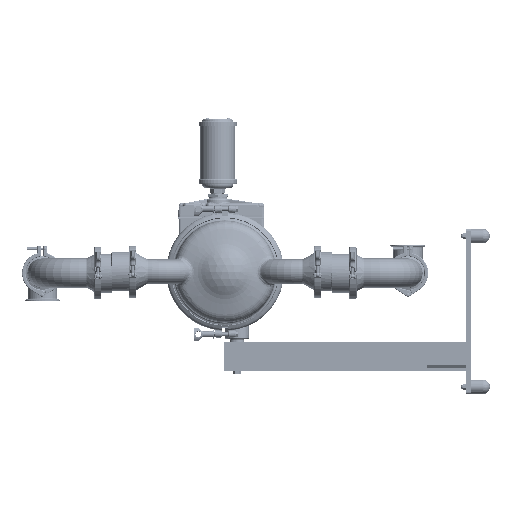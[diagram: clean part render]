
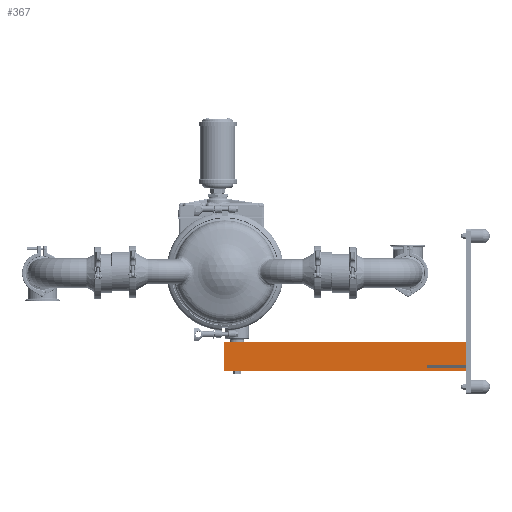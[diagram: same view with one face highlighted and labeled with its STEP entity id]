
A CAD part, left-side view. The second image highlights one B-rep face of the part: STEP entity #367.
In plain terms, the highlighted planar face has unit normal (-1, 0, 0).
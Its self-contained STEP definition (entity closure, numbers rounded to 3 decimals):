
#367 = ADVANCED_FACE ( 'NONE', ( #174367 ), #87871, .T. ) ;
#6681 = EDGE_CURVE ( 'NONE', #410140, #149663, #484894, .T. ) ;
#10469 = DIRECTION ( 'NONE',  ( 0., 0., -1. ) ) ;
#13203 = VERTEX_POINT ( 'NONE', #480945 ) ;
#38767 = VERTEX_POINT ( 'NONE', #410644 ) ;
#43257 = DIRECTION ( 'NONE',  ( -1., 0., 0. ) ) ;
#48456 = VECTOR ( 'NONE', #70812, 39.37 ) ;
#66493 = LINE ( 'NONE', #317818, #229414 ) ;
#68769 = VECTOR ( 'NONE', #539382, 39.37 ) ;
#70812 = DIRECTION ( 'NONE',  ( 0., 1., 0. ) ) ;
#73499 = CARTESIAN_POINT ( 'NONE',  ( -1., -24.72, -7.236 ) ) ;
#87871 = PLANE ( 'NONE',  #534142 ) ;
#105594 = DIRECTION ( 'NONE',  ( 0., 0., -1. ) ) ;
#110876 = CARTESIAN_POINT ( 'NONE',  ( -1., 0.093, -10.236 ) ) ;
#111795 = LINE ( 'NONE', #156423, #470152 ) ;
#112557 = ORIENTED_EDGE ( 'NONE', *, *, #477475, .F. ) ;
#115954 = EDGE_CURVE ( 'NONE', #524233, #132745, #329991, .T. ) ;
#132745 = VERTEX_POINT ( 'NONE', #336823 ) ;
#149663 = VERTEX_POINT ( 'NONE', #436803 ) ;
#151960 = EDGE_CURVE ( 'NONE', #290264, #132745, #543511, .T. ) ;
#156423 = CARTESIAN_POINT ( 'NONE',  ( -1., -24.72, -9.876 ) ) ;
#161002 = DIRECTION ( 'NONE',  ( 0., 0., 1. ) ) ;
#174367 = FACE_OUTER_BOUND ( 'NONE', #344393, .T. ) ;
#198822 = DIRECTION ( 'NONE',  ( 0., 0., -1. ) ) ;
#201980 = LINE ( 'NONE', #464307, #48456 ) ;
#218493 = ORIENTED_EDGE ( 'NONE', *, *, #328784, .F. ) ;
#219024 = CARTESIAN_POINT ( 'NONE',  ( -1., -0.157, -7.236 ) ) ;
#229414 = VECTOR ( 'NONE', #105594, 39.37 ) ;
#237914 = CARTESIAN_POINT ( 'NONE',  ( -1., -24.72, -7.236 ) ) ;
#246284 = ORIENTED_EDGE ( 'NONE', *, *, #255946, .F. ) ;
#255946 = EDGE_CURVE ( 'NONE', #38767, #391671, #66493, .T. ) ;
#257775 = VECTOR ( 'NONE', #507891, 39.37 ) ;
#261130 = VECTOR ( 'NONE', #10469, 39.37 ) ;
#274389 = LINE ( 'NONE', #444707, #459516 ) ;
#282753 = CARTESIAN_POINT ( 'NONE',  ( -1., 0.093, -10.236 ) ) ;
#290264 = VERTEX_POINT ( 'NONE', #282753 ) ;
#295309 = CARTESIAN_POINT ( 'NONE',  ( -1., -24.72, -9.876 ) ) ;
#317818 = CARTESIAN_POINT ( 'NONE',  ( -1., -20.72, -9.626 ) ) ;
#321180 = VECTOR ( 'NONE', #161002, 39.37 ) ;
#327280 = ORIENTED_EDGE ( 'NONE', *, *, #151960, .F. ) ;
#328784 = EDGE_CURVE ( 'NONE', #524233, #13203, #274389, .T. ) ;
#329991 = LINE ( 'NONE', #237914, #68769 ) ;
#335236 = ORIENTED_EDGE ( 'NONE', *, *, #6681, .F. ) ;
#336823 = CARTESIAN_POINT ( 'NONE',  ( -1., 0.093, -7.236 ) ) ;
#344393 = EDGE_LOOP ( 'NONE', ( #335236, #537051, #246284, #482856, #218493, #540852, #327280, #112557 ) ) ;
#348691 = CARTESIAN_POINT ( 'NONE',  ( -1., -20.72, -9.876 ) ) ;
#381138 = DIRECTION ( 'NONE',  ( 0., 0., 1. ) ) ;
#391671 = VERTEX_POINT ( 'NONE', #348691 ) ;
#410140 = VERTEX_POINT ( 'NONE', #295309 ) ;
#410644 = CARTESIAN_POINT ( 'NONE',  ( -1., -20.72, -9.626 ) ) ;
#436803 = CARTESIAN_POINT ( 'NONE',  ( -1., -24.72, -10.236 ) ) ;
#444707 = CARTESIAN_POINT ( 'NONE',  ( -1., -24.72, -7.236 ) ) ;
#459516 = VECTOR ( 'NONE', #198822, 39.37 ) ;
#460717 = DIRECTION ( 'NONE',  ( 0., 1., 0. ) ) ;
#464307 = CARTESIAN_POINT ( 'NONE',  ( -1., -24.72, -9.626 ) ) ;
#470152 = VECTOR ( 'NONE', #460717, 39.37 ) ;
#477475 = EDGE_CURVE ( 'NONE', #149663, #290264, #549792, .T. ) ;
#479398 = CARTESIAN_POINT ( 'NONE',  ( -1., -24.72, -9.876 ) ) ;
#480945 = CARTESIAN_POINT ( 'NONE',  ( -1., -24.72, -9.626 ) ) ;
#482856 = ORIENTED_EDGE ( 'NONE', *, *, #551135, .F. ) ;
#484894 = LINE ( 'NONE', #479398, #261130 ) ;
#497931 = EDGE_CURVE ( 'NONE', #410140, #391671, #111795, .T. ) ;
#502386 = CARTESIAN_POINT ( 'NONE',  ( -1., -24.72, -10.236 ) ) ;
#507891 = DIRECTION ( 'NONE',  ( 0., 1., 0. ) ) ;
#524233 = VERTEX_POINT ( 'NONE', #73499 ) ;
#534142 = AXIS2_PLACEMENT_3D ( 'NONE', #219024, #43257, #381138 ) ;
#537051 = ORIENTED_EDGE ( 'NONE', *, *, #497931, .T. ) ;
#539382 = DIRECTION ( 'NONE',  ( 0., 1., 0. ) ) ;
#540852 = ORIENTED_EDGE ( 'NONE', *, *, #115954, .T. ) ;
#543511 = LINE ( 'NONE', #110876, #321180 ) ;
#549792 = LINE ( 'NONE', #502386, #257775 ) ;
#551135 = EDGE_CURVE ( 'NONE', #13203, #38767, #201980, .T. ) ;
